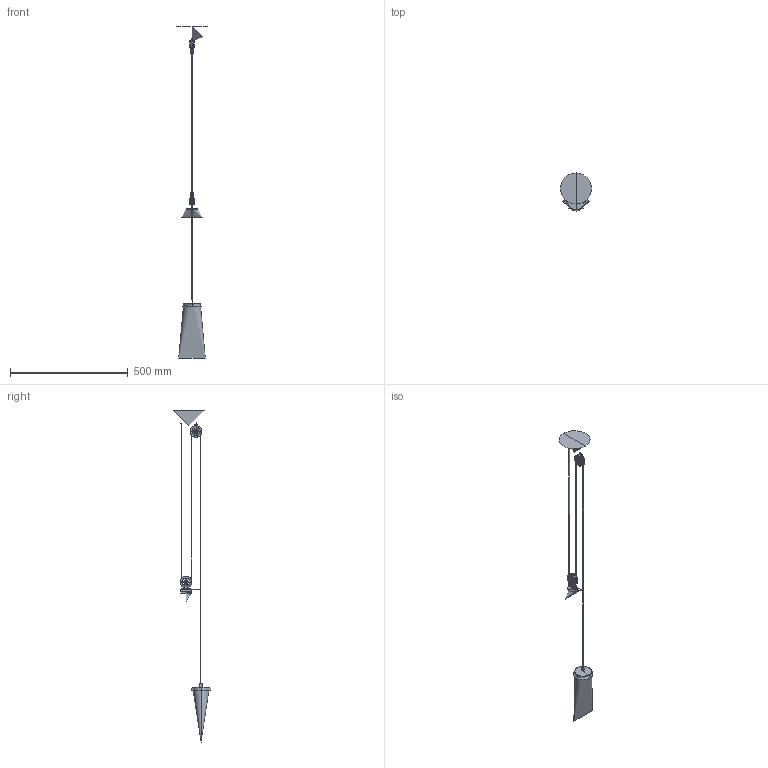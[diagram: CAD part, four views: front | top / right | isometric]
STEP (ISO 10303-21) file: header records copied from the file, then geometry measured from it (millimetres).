
FILE_DESCRIPTION(/* description */ (''),/* implementation_level */ '2;1');
FILE_NAME(/* name */ 'aggregato saliscendi sferico d25',/* time_stamp */ '2016-05-16T10:32:28+02:00',/* author */ (''),/* organization */ (''),/* preprocessor_version */ 'ST-DEVELOPER v10',/* originating_system */ '',/* authorisation */ '');
FILE_SCHEMA (('CONFIG_CONTROL_DESIGN'));
Length unit declared in the file: millimetre
Products named in the file (5): 1; 2; 3; 4; 5
Assembly tree (4 placements, depth 2):
  1
    2
    3
    4
    5
Bounding box: 131.4 x 159.41 x 1409.57 mm (x, y, z)
Surface area: 372143.6 mm2 (no closed solid volume)
Topology: 0 solids, 127 shells, 145 faces, 569 edges, 558 vertices
Faces by surface type: bspline 74, plane 71
Entity records: 7673 total; most frequent: CARTESIAN_POINT 4491, ORIENTED_EDGE 557, EDGE_CURVE 521, VERTEX_POINT 502, B_SPLINE_CURVE_WITH_KNOTS 172, EDGE_LOOP 157, ADVANCED_FACE 145, FACE_OUTER_BOUND 145
